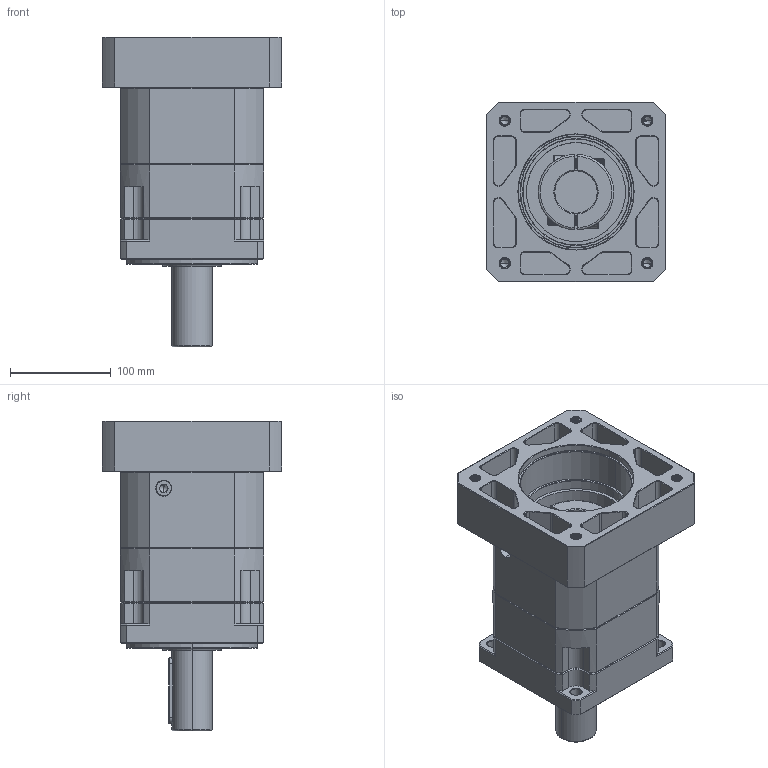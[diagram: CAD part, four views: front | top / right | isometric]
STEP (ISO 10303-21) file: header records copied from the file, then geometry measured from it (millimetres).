
FILE_DESCRIPTION (( 'STEP AP214' ), '1' );
FILE_NAME ('ZB142A-D40-L1-P2-42-114.3-200-M12.step', '2023-09-01T11:42:32', ( '' ), ( '' ), 'SwSTEP 2.0', 'SolidWorks 2016', '' );
FILE_SCHEMA (( 'AUTOMOTIVE_DESIGN' ));
Length unit declared in the file: millimetre
Products named in the file (1): ZB142A-D40-L1-P2-42-114.3-200-M12
Bounding box: 178 x 178 x 307.2 mm (x, y, z)
Volume: 3730940.9 mm3; surface area: 372386.1 mm2
Topology: 6 solids, 6 shells, 2452 faces, 6418 edges, 4081 vertices
Faces by surface type: plane 1190, cylinder 449, bspline 409, cone 382, torus 22
Entity records: 132729 total; most frequent: CARTESIAN_POINT 48733, ORIENTED_EDGE 12776, DIRECTION 10301, EDGE_CURVE 6388, VECTOR 4127, LINE 4127, VERTEX_POINT 4081, AXIS2_PLACEMENT_3D 3087
